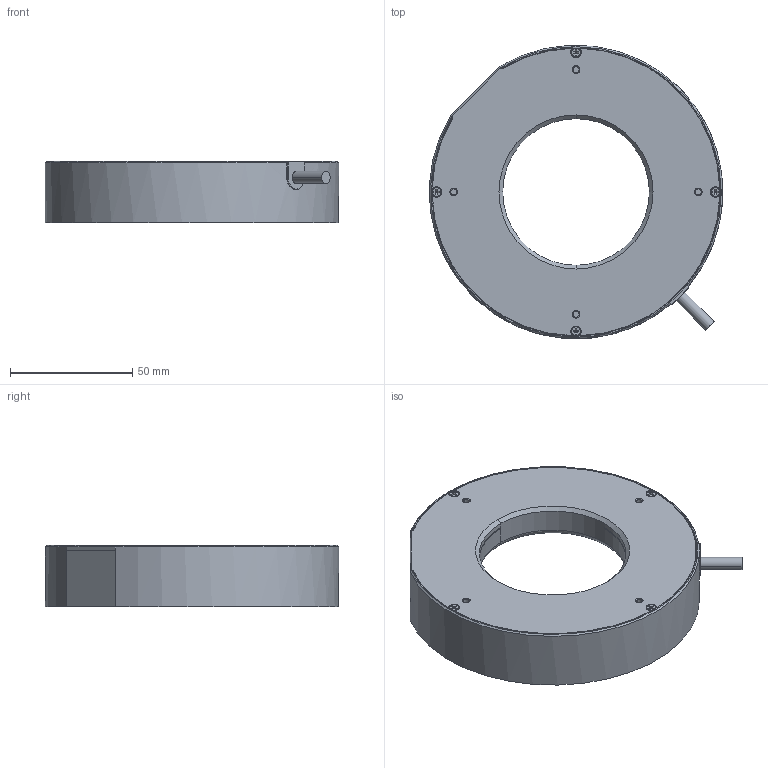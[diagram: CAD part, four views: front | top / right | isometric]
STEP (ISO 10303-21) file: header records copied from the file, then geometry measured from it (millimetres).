
FILE_DESCRIPTION((''),'2;1');
FILE_NAME('MV-LRDS-H-120-60-W','2022-09-02T15:44:26',('qiaoxuan5'),(''),'CREO PARAMETRIC BY PTC INC, 2020044','CREO PARAMETRIC BY PTC INC, 2020044','');
FILE_SCHEMA(('CONFIG_CONTROL_DESIGN'));
Length unit declared in the file: metre
Products named in the file (1): MV-LRDS-H-120-60-W
Bounding box: 119.92 x 119.92 x 25 mm (x, y, z)
Volume: 176949.2 mm3; surface area: 46925.6 mm2
Topology: 1 solids, 16 shells, 531 faces, 1268 edges, 752 vertices
Faces by surface type: plane 262, cylinder 155, cone 84, torus 24, sphere 6
Entity records: 15289 total; most frequent: CARTESIAN_POINT 2962, DIRECTION 2644, ORIENTED_EDGE 2492, EDGE_CURVE 1246, AXIS2_PLACEMENT_3D 959, VERTEX_POINT 752, VECTOR 726, LINE 726
